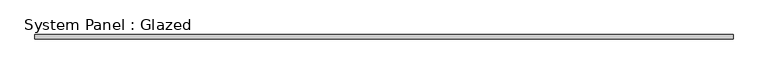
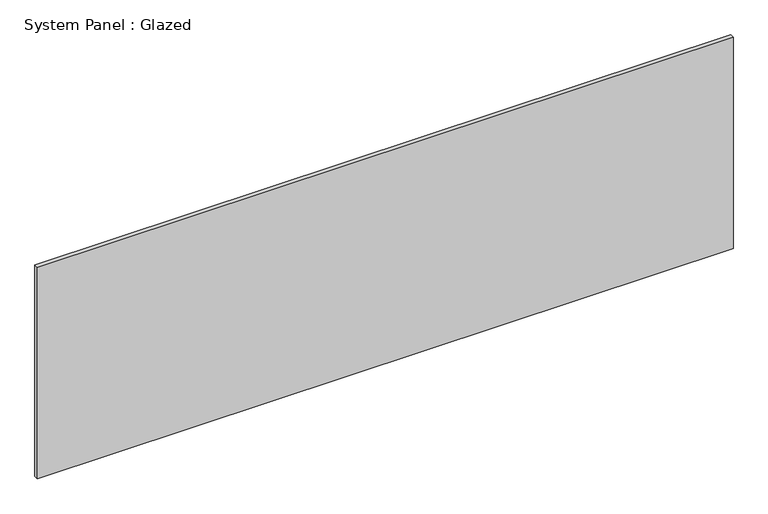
"""IFC4 building model written with IfcOpenShell, lengths in millimetres: plate geometry, System Panel : Glazed."""

from ifc_helpers import new_model, si_unit, origin, origin_with_axes, place, context, project, spatial, polyline, outline, extrude, source, transform, mapped, element, save


def system_panel_glazed_4d74a10d(model_context):
    return source(origin(), model_context, "Body", "SweptSolid", [
        extrude(outline(polyline([(1449.9166667, -9.0), (-1449.9166667, -9.0), (-1449.9166667, 9.0), (1449.9166667, 9.0), (1449.9166667, -9.0)])), origin_with_axes(), (0.0, 0.0, 1.0), 931.3333333),
    ])


if __name__ == "__main__":
    model = new_model("IFC4")
    model_context = context("Model", 3, world=origin())
    ifc_project = project(units=[si_unit("LENGTHUNIT", "METRE", prefix="MILLI")], contexts=[model_context])
    site = spatial("IfcSite", under=ifc_project)
    building = spatial("IfcBuilding", under=site)
    placement = place(None, origin())
    system_panel_glazed_shape = system_panel_glazed_4d74a10d(model_context)
    element("IfcPlate", 1, ObjectType="System Panel : Glazed", at=placement, inside=building, context=model_context, shape_type="MappedRepresentation", body=[
        mapped(system_panel_glazed_shape, transform((0.0, 0.0, 0.0), x_axis=(1.0, 0.0, 0.0), y_axis=(0.0, 1.0, 0.0), z_axis=(0.0, 0.0, 1.0))),
    ])
    save(model, "model.ifc")
